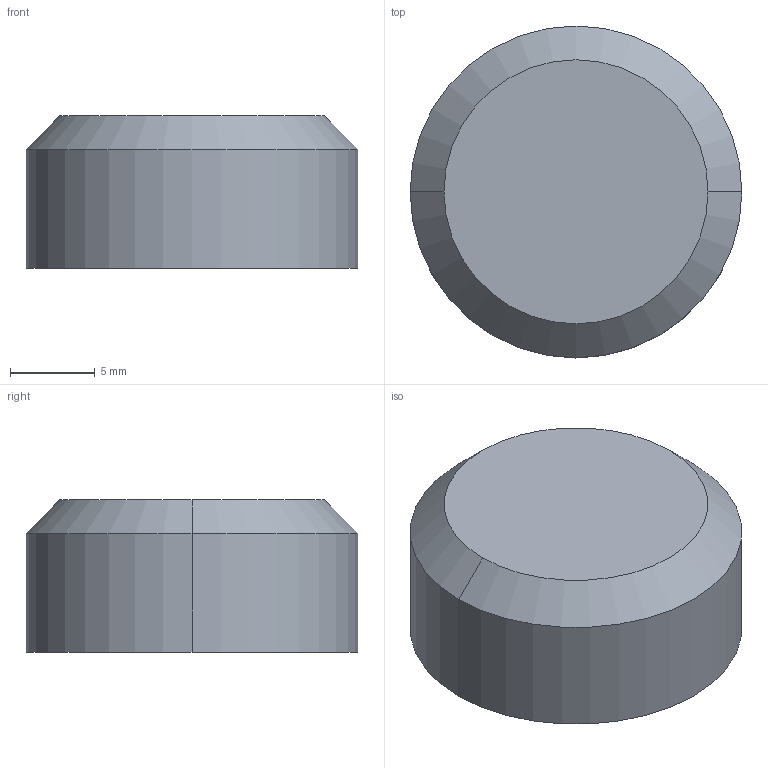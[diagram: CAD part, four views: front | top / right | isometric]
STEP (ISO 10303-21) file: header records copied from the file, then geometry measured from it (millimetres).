
FILE_DESCRIPTION (( 'STEP AP214' ), '1' );
FILE_NAME ('Ferris Wheel - Axle Cap.STEP', '2022-06-13T02:43:35', ( '' ), ( '' ), 'SwSTEP 2.0', 'SolidWorks 2020', '' );
FILE_SCHEMA (( 'AUTOMOTIVE_DESIGN' ));
Length unit declared in the file: millimetre
Products named in the file (1): Ferris Wheel - Axle Cap
Bounding box: 19.6 x 19.6 x 9 mm (x, y, z)
Volume: 1524.8 mm3; surface area: 1368.5 mm2
Topology: 1 solids, 1 shells, 15 faces, 30 edges, 18 vertices
Faces by surface type: cone 5, cylinder 5, plane 5
Entity records: 427 total; most frequent: DIRECTION 75, CARTESIAN_POINT 70, ORIENTED_EDGE 60, AXIS2_PLACEMENT_3D 31, EDGE_CURVE 30, VERTEX_POINT 18, EDGE_LOOP 16, ADVANCED_FACE 15
